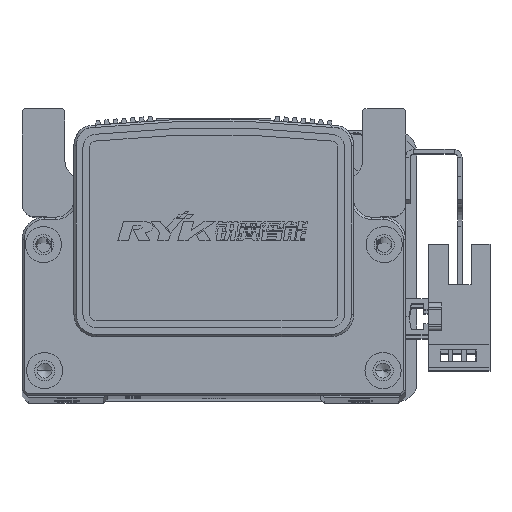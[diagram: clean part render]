
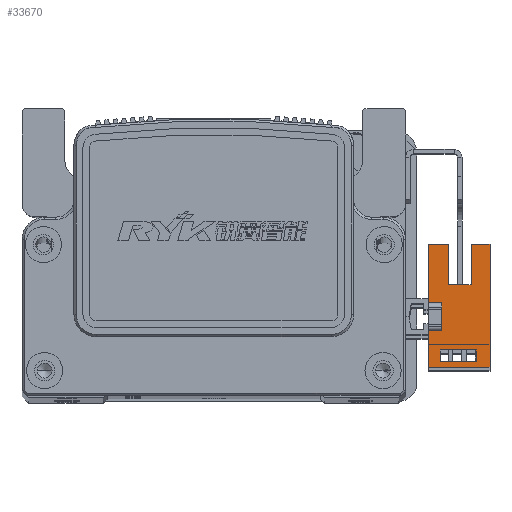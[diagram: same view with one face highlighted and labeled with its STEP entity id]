
A CAD part, top view. The second image highlights one B-rep face of the part: STEP entity #33670.
In plain terms, the highlighted planar face has unit normal (0, 0, 1) as drawn and (1, 0, 0) by its records, which use the part's own axes.
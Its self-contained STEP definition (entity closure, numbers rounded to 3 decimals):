
#19782 = LINE ( 'NONE', #23826, #19850 ) ;
#19825 = VECTOR ( 'NONE', #23797, 1000. ) ;
#19850 = VECTOR ( 'NONE', #23814, 1000. ) ;
#19858 = LINE ( 'NONE', #23777, #19825 ) ;
#19935 = LINE ( 'NONE', #22157, #19948 ) ;
#19948 = VECTOR ( 'NONE', #22216, 1000. ) ;
#20000 = LINE ( 'NONE', #27318, #20062 ) ;
#20039 = LINE ( 'NONE', #27305, #20099 ) ;
#20051 = LINE ( 'NONE', #27259, #20103 ) ;
#20062 = VECTOR ( 'NONE', #27312, 1000. ) ;
#20087 = LINE ( 'NONE', #27321, #20091 ) ;
#20091 = VECTOR ( 'NONE', #27287, 1000. ) ;
#20099 = VECTOR ( 'NONE', #27309, 1000. ) ;
#20103 = VECTOR ( 'NONE', #27272, 1000. ) ;
#20128 = LINE ( 'NONE', #27362, #20205 ) ;
#20143 = VECTOR ( 'NONE', #27356, 1000. ) ;
#20147 = LINE ( 'NONE', #27330, #20204 ) ;
#20152 = VECTOR ( 'NONE', #27292, 1000. ) ;
#20158 = VECTOR ( 'NONE', #27333, 1000. ) ;
#20159 = VECTOR ( 'NONE', #27344, 1000. ) ;
#20168 = VECTOR ( 'NONE', #27339, 1000. ) ;
#20194 = LINE ( 'NONE', #27281, #20152 ) ;
#20198 = LINE ( 'NONE', #27364, #20168 ) ;
#20200 = LINE ( 'NONE', #27347, #20158 ) ;
#20204 = VECTOR ( 'NONE', #27332, 1000. ) ;
#20205 = VECTOR ( 'NONE', #27342, 1000. ) ;
#20209 = LINE ( 'NONE', #27327, #20159 ) ;
#20212 = LINE ( 'NONE', #27331, #20143 ) ;
#22154 = CARTESIAN_POINT ( 'NONE',  ( 3.2, -11.1, 3. ) ) ;
#22157 = CARTESIAN_POINT ( 'NONE',  ( 3.2, 16.1, 3. ) ) ;
#22188 = CARTESIAN_POINT ( 'NONE',  ( 3.2, 16.1, -10.7 ) ) ;
#22216 = DIRECTION ( 'NONE',  ( 0., 1., 0. ) ) ;
#22222 = CARTESIAN_POINT ( 'NONE',  ( 3.2, 16.1, -6.5 ) ) ;
#23777 = CARTESIAN_POINT ( 'NONE',  ( 3.2, -3.1, 3. ) ) ;
#23797 = DIRECTION ( 'NONE',  ( 0., 0., -1. ) ) ;
#23814 = DIRECTION ( 'NONE',  ( 0., 1., 0. ) ) ;
#23826 = CARTESIAN_POINT ( 'NONE',  ( 3.2, 0., 0. ) ) ;
#25158 = EDGE_CURVE ( 'NONE', #40118, #42685, #19858, .T. ) ;
#25163 = EDGE_CURVE ( 'NONE', #42685, #39934, #19782, .T. ) ;
#25191 = EDGE_CURVE ( 'NONE', #42687, #39918, #19935, .T. ) ;
#25223 = EDGE_CURVE ( 'NONE', #39910, #39942, #20051, .T. ) ;
#25238 = EDGE_CURVE ( 'NONE', #42679, #39891, #20039, .T. ) ;
#25246 = EDGE_CURVE ( 'NONE', #63470, #39919, #20000, .T. ) ;
#25249 = EDGE_CURVE ( 'NONE', #39942, #39918, #20087, .T. ) ;
#25251 = EDGE_CURVE ( 'NONE', #39891, #39926, #20194, .T. ) ;
#25255 = EDGE_CURVE ( 'NONE', #40158, #63480, #20200, .T. ) ;
#25257 = EDGE_CURVE ( 'NONE', #39934, #42687, #20198, .T. ) ;
#25259 = EDGE_CURVE ( 'NONE', #39926, #39908, #20209, .T. ) ;
#25261 = EDGE_CURVE ( 'NONE', #39919, #39910, #20212, .T. ) ;
#25263 = EDGE_CURVE ( 'NONE', #40158, #63534, #20128, .T. ) ;
#25270 = EDGE_CURVE ( 'NONE', #39908, #42679, #20147, .T. ) ;
#27259 = CARTESIAN_POINT ( 'NONE',  ( 3.2, 25.1, -1.5 ) ) ;
#27272 = DIRECTION ( 'NONE',  ( 0., 1., 0. ) ) ;
#27281 = CARTESIAN_POINT ( 'NONE',  ( 3.2, -9.83, -10.7 ) ) ;
#27287 = DIRECTION ( 'NONE',  ( 0., 0., 1. ) ) ;
#27292 = DIRECTION ( 'NONE',  ( 0., 0., -1. ) ) ;
#27305 = CARTESIAN_POINT ( 'NONE',  ( 3.2, 16.1, 0.3 ) ) ;
#27309 = DIRECTION ( 'NONE',  ( 0., -1., 0. ) ) ;
#27312 = DIRECTION ( 'NONE',  ( 0., -1., 0. ) ) ;
#27318 = CARTESIAN_POINT ( 'NONE',  ( 3.2, 25.1, -6.5 ) ) ;
#27321 = CARTESIAN_POINT ( 'NONE',  ( 3.2, 16.1, -10.7 ) ) ;
#27327 = CARTESIAN_POINT ( 'NONE',  ( 3.2, 16.1, -7.7 ) ) ;
#27330 = CARTESIAN_POINT ( 'NONE',  ( 3.2, -7.33, -10.7 ) ) ;
#27331 = CARTESIAN_POINT ( 'NONE',  ( 3.2, 7.1, -6.5 ) ) ;
#27332 = DIRECTION ( 'NONE',  ( 0., 0., 1. ) ) ;
#27333 = DIRECTION ( 'NONE',  ( 0., 0., 1. ) ) ;
#27339 = DIRECTION ( 'NONE',  ( 0., 0., 1. ) ) ;
#27342 = DIRECTION ( 'NONE',  ( 0., 1., 0. ) ) ;
#27344 = DIRECTION ( 'NONE',  ( 0., 1., 0. ) ) ;
#27347 = CARTESIAN_POINT ( 'NONE',  ( 3.2, -11.1, 3. ) ) ;
#27356 = DIRECTION ( 'NONE',  ( 0., 0., 1. ) ) ;
#27362 = CARTESIAN_POINT ( 'NONE',  ( 3.2, 16.1, -10.7 ) ) ;
#27364 = CARTESIAN_POINT ( 'NONE',  ( 3.2, 3.1, 3. ) ) ;
#29187 = ORIENTED_EDGE ( 'NONE', *, *, #25158, .F. ) ;
#29203 = ORIENTED_EDGE ( 'NONE', *, *, #25255, .F. ) ;
#29205 = ORIENTED_EDGE ( 'NONE', *, *, #25238, .F. ) ;
#29245 = ORIENTED_EDGE ( 'NONE', *, *, #47644, .T. ) ;
#29249 = ORIENTED_EDGE ( 'NONE', *, *, #25191, .F. ) ;
#29263 = ORIENTED_EDGE ( 'NONE', *, *, #25263, .T. ) ;
#29285 = ORIENTED_EDGE ( 'NONE', *, *, #25163, .F. ) ;
#29287 = ORIENTED_EDGE ( 'NONE', *, *, #25251, .F. ) ;
#29289 = ORIENTED_EDGE ( 'NONE', *, *, #25259, .F. ) ;
#29303 = ORIENTED_EDGE ( 'NONE', *, *, #25261, .T. ) ;
#29313 = ORIENTED_EDGE ( 'NONE', *, *, #25270, .F. ) ;
#29317 = ORIENTED_EDGE ( 'NONE', *, *, #25246, .T. ) ;
#29319 = ORIENTED_EDGE ( 'NONE', *, *, #25223, .T. ) ;
#29321 = ORIENTED_EDGE ( 'NONE', *, *, #25249, .T. ) ;
#29333 = ORIENTED_EDGE ( 'NONE', *, *, #47622, .F. ) ;
#29361 = ORIENTED_EDGE ( 'NONE', *, *, #25257, .F. ) ;
#33670 = ADVANCED_FACE ( 'NONE', ( #58400, #57951 ), #55207, .T. ) ;
#39891 = VERTEX_POINT ( 'NONE', #51884 ) ;
#39908 = VERTEX_POINT ( 'NONE', #51853 ) ;
#39910 = VERTEX_POINT ( 'NONE', #51873 ) ;
#39918 = VERTEX_POINT ( 'NONE', #51874 ) ;
#39919 = VERTEX_POINT ( 'NONE', #51890 ) ;
#39926 = VERTEX_POINT ( 'NONE', #51877 ) ;
#39934 = VERTEX_POINT ( 'NONE', #51856 ) ;
#39942 = VERTEX_POINT ( 'NONE', #51908 ) ;
#40118 = VERTEX_POINT ( 'NONE', #51883 ) ;
#40158 = VERTEX_POINT ( 'NONE', #51893 ) ;
#40390 = CARTESIAN_POINT ( 'NONE',  ( 3.2, 16.1, -10.7 ) ) ;
#40401 = DIRECTION ( 'NONE',  ( 0., 0., 1. ) ) ;
#41479 = CARTESIAN_POINT ( 'NONE',  ( 3.2, 16.1, 3. ) ) ;
#41490 = DIRECTION ( 'NONE',  ( 0., 1., 0. ) ) ;
#42679 = VERTEX_POINT ( 'NONE', #51948 ) ;
#42685 = VERTEX_POINT ( 'NONE', #51921 ) ;
#42687 = VERTEX_POINT ( 'NONE', #51949 ) ;
#44317 = LINE ( 'NONE', #40390, #44392 ) ;
#44334 = LINE ( 'NONE', #41479, #44347 ) ;
#44347 = VECTOR ( 'NONE', #41490, 1000. ) ;
#44392 = VECTOR ( 'NONE', #40401, 1000. ) ;
#47622 = EDGE_CURVE ( 'NONE', #63480, #40118, #44334, .T. ) ;
#47644 = EDGE_CURVE ( 'NONE', #63534, #63470, #44317, .T. ) ;
#51853 = CARTESIAN_POINT ( 'NONE',  ( 3.2, -7.33, -7.7 ) ) ;
#51856 = CARTESIAN_POINT ( 'NONE',  ( 3.2, 3.1, 0. ) ) ;
#51873 = CARTESIAN_POINT ( 'NONE',  ( 3.2, 7.1, -1.5 ) ) ;
#51874 = CARTESIAN_POINT ( 'NONE',  ( 3.2, 16.1, 3. ) ) ;
#51877 = CARTESIAN_POINT ( 'NONE',  ( 3.2, -9.83, -7.7 ) ) ;
#51883 = CARTESIAN_POINT ( 'NONE',  ( 3.2, -3.1, 3. ) ) ;
#51884 = CARTESIAN_POINT ( 'NONE',  ( 3.2, -9.83, 0.3 ) ) ;
#51890 = CARTESIAN_POINT ( 'NONE',  ( 3.2, 7.1, -6.5 ) ) ;
#51893 = CARTESIAN_POINT ( 'NONE',  ( 3.2, -11.1, -10.7 ) ) ;
#51908 = CARTESIAN_POINT ( 'NONE',  ( 3.2, 16.1, -1.5 ) ) ;
#51921 = CARTESIAN_POINT ( 'NONE',  ( 3.2, -3.1, 0. ) ) ;
#51948 = CARTESIAN_POINT ( 'NONE',  ( 3.2, -7.33, 0.3 ) ) ;
#51949 = CARTESIAN_POINT ( 'NONE',  ( 3.2, 3.1, 3. ) ) ;
#54004 = AXIS2_PLACEMENT_3D ( 'NONE', #55183, #55184, #55185 ) ;
#55183 = CARTESIAN_POINT ( 'NONE',  ( 3.2, 16.1, -10.7 ) ) ;
#55184 = DIRECTION ( 'NONE',  ( 1., 0., 0. ) ) ;
#55185 = DIRECTION ( 'NONE',  ( 0., 1., 0. ) ) ;
#55207 = PLANE ( 'NONE',  #54004 ) ;
#57951 = FACE_BOUND ( 'NONE', #62583, .T. ) ;
#58400 = FACE_OUTER_BOUND ( 'NONE', #62562, .T. ) ;
#62562 = EDGE_LOOP ( 'NONE', ( #29317, #29303, #29319, #29321, #29249, #29361, #29285, #29187, #29333, #29203, #29263, #29245 ) ) ;
#62583 = EDGE_LOOP ( 'NONE', ( #29205, #29313, #29289, #29287 ) ) ;
#63470 = VERTEX_POINT ( 'NONE', #22222 ) ;
#63480 = VERTEX_POINT ( 'NONE', #22154 ) ;
#63534 = VERTEX_POINT ( 'NONE', #22188 ) ;
